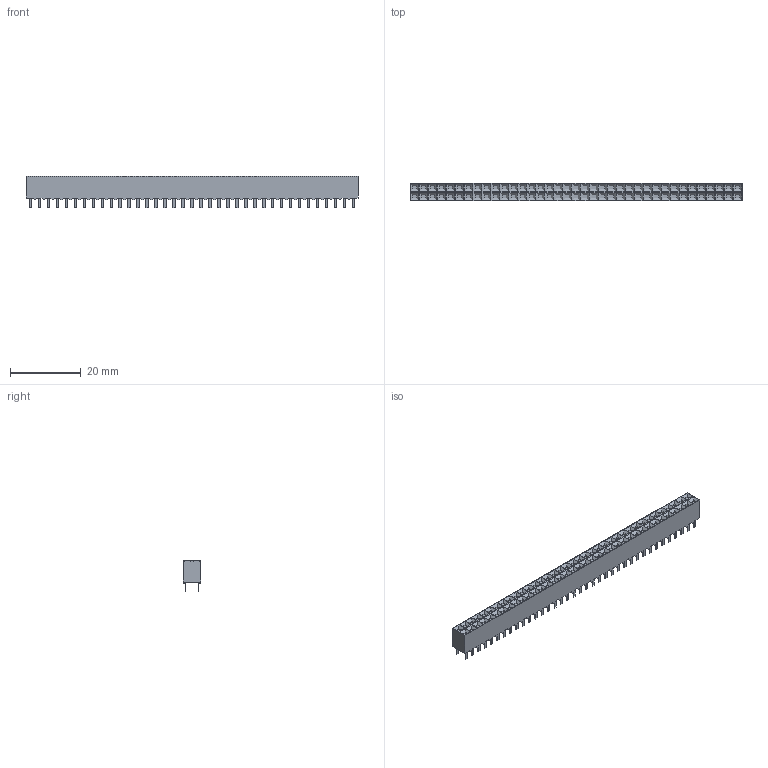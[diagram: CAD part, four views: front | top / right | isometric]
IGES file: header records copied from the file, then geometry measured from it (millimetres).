
Start section:  PTC IGES file: c-3-535542-7-w-3d.igs
Global section: file name: c-3-535542-7-w-3d.igs; native system: Creo Parametric by Parametric Technology Corporation; preprocessor: 2014090; author: workeradm; organization: Unknown; units: millimetre
Bounding box: 93.98 x 5.03 x 9.02 mm (x, y, z)
Surface area: 2862.8 mm2 (no closed solid volume)
Topology: 0 solids, 0 shells, 1330 faces, 6488 edges, 6488 vertices
Faces by surface type: bspline 1330
